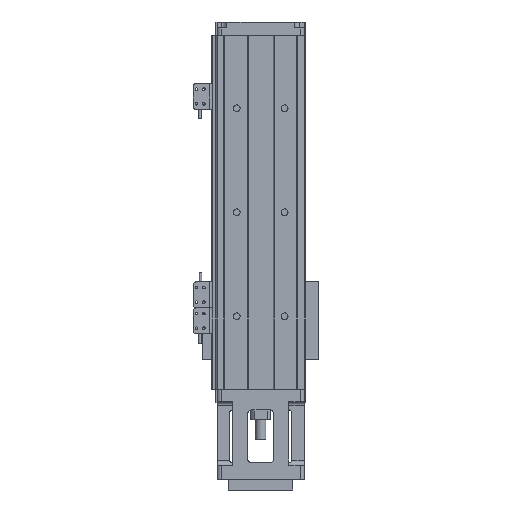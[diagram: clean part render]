
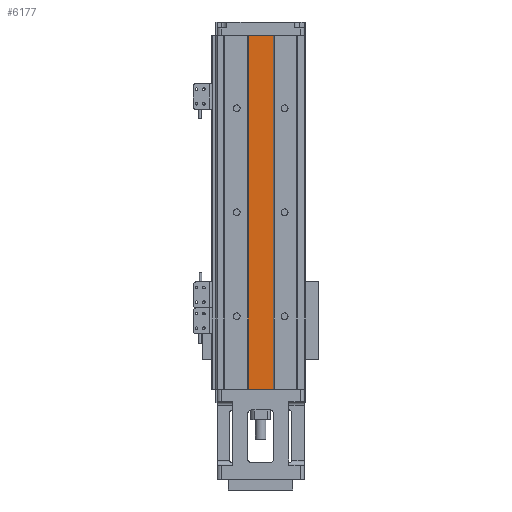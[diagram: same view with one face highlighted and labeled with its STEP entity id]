
A CAD part, front view. The second image highlights one B-rep face of the part: STEP entity #6177.
In plain terms, the highlighted planar face has unit normal (0, -1, 0).
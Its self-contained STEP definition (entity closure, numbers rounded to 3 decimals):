
#1806 = PLANE ( 'NONE',  #22740 ) ;
#1861 = VECTOR ( 'NONE', #26704, 1000. ) ;
#3489 = VECTOR ( 'NONE', #6510, 1000. ) ;
#5009 = VERTEX_POINT ( 'NONE', #30994 ) ;
#5266 = CARTESIAN_POINT ( 'NONE',  ( -12.269, -13.462, 0. ) ) ;
#6177 = ADVANCED_FACE ( 'NONE', ( #22350 ), #1806, .F. ) ;
#6510 = DIRECTION ( 'NONE',  ( 0., 0., -1. ) ) ;
#6605 = CARTESIAN_POINT ( 'NONE',  ( 11.731, -13.462, 340. ) ) ;
#6696 = EDGE_CURVE ( 'NONE', #19898, #20016, #17289, .T. ) ;
#7947 = DIRECTION ( 'NONE',  ( 0., 1., 0. ) ) ;
#9357 = EDGE_LOOP ( 'NONE', ( #15602, #29197, #19153, #29261 ) ) ;
#12572 = VECTOR ( 'NONE', #34892, 1000. ) ;
#12714 = LINE ( 'NONE', #32807, #27461 ) ;
#13047 = CARTESIAN_POINT ( 'NONE',  ( 11.731, -13.462, 0. ) ) ;
#15602 = ORIENTED_EDGE ( 'NONE', *, *, #6696, .F. ) ;
#16736 = VERTEX_POINT ( 'NONE', #21698 ) ;
#17289 = LINE ( 'NONE', #24498, #3489 ) ;
#19153 = ORIENTED_EDGE ( 'NONE', *, *, #19298, .F. ) ;
#19298 = EDGE_CURVE ( 'NONE', #16736, #5009, #12714, .T. ) ;
#19898 = VERTEX_POINT ( 'NONE', #6605 ) ;
#20016 = VERTEX_POINT ( 'NONE', #13047 ) ;
#21698 = CARTESIAN_POINT ( 'NONE',  ( -12.269, -13.462, 0. ) ) ;
#22350 = FACE_OUTER_BOUND ( 'NONE', #9357, .T. ) ;
#22740 = AXIS2_PLACEMENT_3D ( 'NONE', #25573, #7947, #31139 ) ;
#24372 = LINE ( 'NONE', #35068, #1861 ) ;
#24498 = CARTESIAN_POINT ( 'NONE',  ( 11.731, -13.462, 340. ) ) ;
#25573 = CARTESIAN_POINT ( 'NONE',  ( -12.269, -13.462, 340. ) ) ;
#26704 = DIRECTION ( 'NONE',  ( 1., 0., 0. ) ) ;
#27461 = VECTOR ( 'NONE', #29721, 1000. ) ;
#29197 = ORIENTED_EDGE ( 'NONE', *, *, #34242, .F. ) ;
#29261 = ORIENTED_EDGE ( 'NONE', *, *, #32036, .F. ) ;
#29721 = DIRECTION ( 'NONE',  ( 0., 0., 1. ) ) ;
#30994 = CARTESIAN_POINT ( 'NONE',  ( -12.269, -13.462, 340. ) ) ;
#31139 = DIRECTION ( 'NONE',  ( 0., 0., 1. ) ) ;
#32036 = EDGE_CURVE ( 'NONE', #20016, #16736, #36984, .T. ) ;
#32807 = CARTESIAN_POINT ( 'NONE',  ( -12.269, -13.462, 340. ) ) ;
#34242 = EDGE_CURVE ( 'NONE', #5009, #19898, #24372, .T. ) ;
#34892 = DIRECTION ( 'NONE',  ( -1., 0., 0. ) ) ;
#35068 = CARTESIAN_POINT ( 'NONE',  ( -12.269, -13.462, 340. ) ) ;
#36984 = LINE ( 'NONE', #5266, #12572 ) ;
